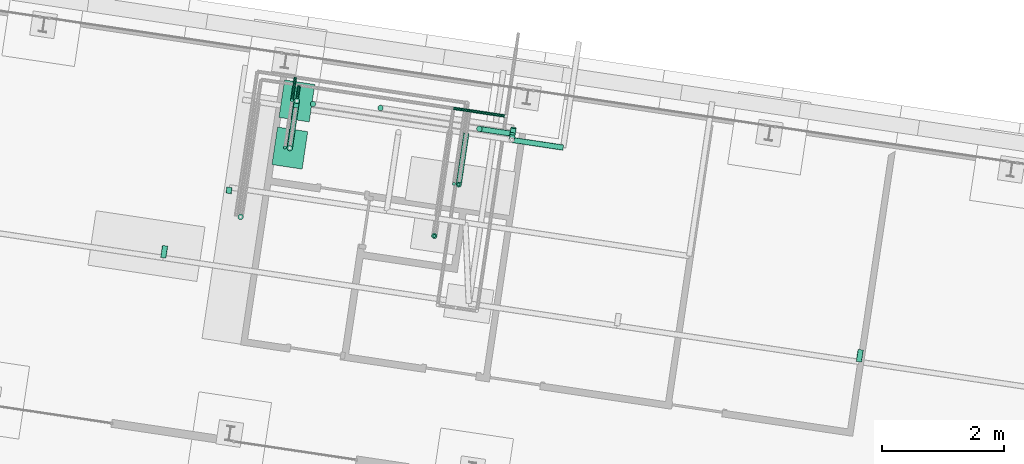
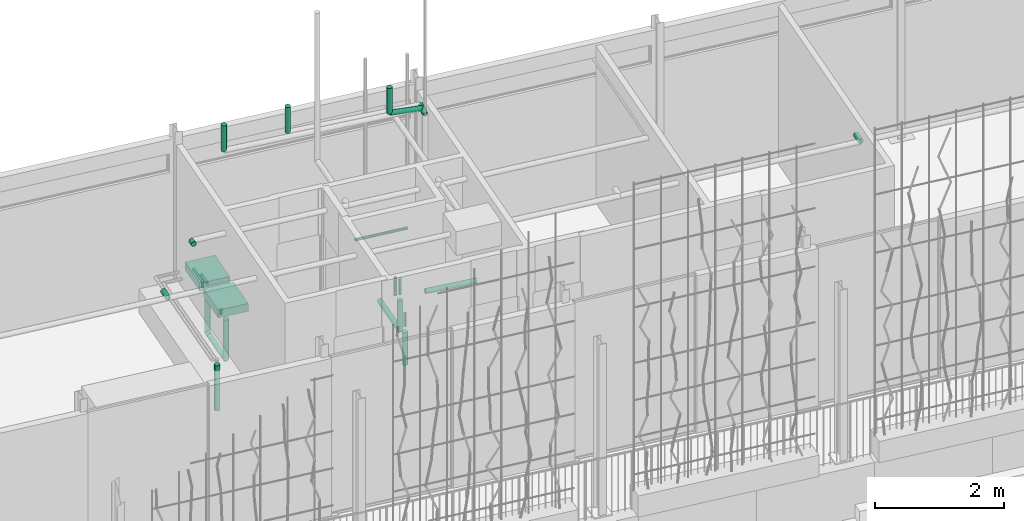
# One storey, part 138 of 142: 24 pipe segments, 3 duct segments, 2 sanitary terminals.
"""IFC4 building model written with IfcOpenShell, lengths in metres."""

from ifc_helpers import new_model, si_unit, direction, frame, origin_with_axes, place, context, subcontext, project, spatial, polyline, circle, outline, extrude, material, material_profile, profile_set, profile_usage, type_object, element, save


model = new_model("IFC4")

# Units and contexts
model_context = context("Model", 3, precision=1e-05, world=origin_with_axes(), true_north=direction((0.0, 1.0)))
body_context = subcontext(model_context, "Body", "Model", "MODEL_VIEW")
ifc_project = project(units=[si_unit("VOLUMEUNIT", "CUBIC_METRE"), si_unit("LENGTHUNIT", "METRE"), si_unit("AREAUNIT", "SQUARE_METRE")], contexts=[model_context])

# Site, building, storey
site_placement = place(None, origin_with_axes())
site = spatial("IfcSite", under=ifc_project, at=site_placement, Name="Lares · Rua das Mercês · artigo 4771")
building_placement = place(site_placement, frame((12.0, 10.2, 13.9), z_axis=(0.0, 0.0, 1.0), x_axis=(0.989015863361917, -0.147809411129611, 0.0)))
building = spatial("IfcBuilding", under=site, at=building_placement, Name="Casa Sobreposta")
storey_placement = place(building_placement, origin_with_axes())
storey = spatial("IfcBuildingStorey", under=building, at=storey_placement, Name="00 · Habitação e estacionamento", Elevation=13.9)

# Pipe segments
ifc_material_1 = material(Name="cold · traçado de estudo", Category="schematic services")
ifc_material_profile_1 = material_profile(ifc_material_1, circle(Radius=0.025))
ifc_profile_set_1 = profile_set([ifc_material_profile_1], Name="D0.05")
ifc_profile_usage_1 = profile_usage(ifc_profile_set_1)
pipe_segment_type_1 = type_object("IfcPipeSegmentType", Name="D0.05 / cold", PredefinedType="NOTDEFINED", material=ifc_profile_set_1)
pipe_segment_1_placement = place(storey_placement, frame((8.28, 5.92, 0.6), z_axis=(0.0, -1.0, 0.0), x_axis=(-1.0, 0.0, 0.0)))
element("IfcPipeSegment", 1, at=pipe_segment_1_placement, inside=storey, type_object=pipe_segment_type_1, material=ifc_profile_usage_1, Name="AF · Lavatório 2", context=body_context, shape_type="SweptSolid", body=[
    extrude(circle(Radius=0.025), origin_with_axes(), (0.0, 0.0, 1.0), 0.26),
])
ifc_profile_usage_2 = profile_usage(ifc_profile_set_1)
pipe_segment_2_placement = place(storey_placement, frame((11.7, 5.92, 0.6), z_axis=(-1.0, 0.0, 0.0), x_axis=(0.0, 1.0, 0.0)))
element("IfcPipeSegment", 2, at=pipe_segment_2_placement, inside=storey, type_object=pipe_segment_type_1, material=ifc_profile_usage_2, Name="AF · Banheira", context=body_context, shape_type="SweptSolid", body=[
    extrude(circle(Radius=0.025), origin_with_axes(), (0.0, 0.0, 1.0), 0.6),
])
ifc_profile_usage_3 = profile_usage(ifc_profile_set_1)
pipe_segment_3_placement = place(storey_placement, frame((11.1, 4.7, 0.6), z_axis=(0.0, 0.0, -1.0), x_axis=(1.0, 0.0, 0.0)))
element("IfcPipeSegment", 3, at=pipe_segment_3_placement, inside=storey, type_object=pipe_segment_type_1, material=ifc_profile_usage_3, Name="AF · Banheira", context=body_context, shape_type="SweptSolid", body=[
    extrude(circle(Radius=0.025), origin_with_axes(), (0.0, 0.0, 1.0), 0.3),
])
ifc_profile_usage_4 = profile_usage(ifc_profile_set_1)
pipe_segment_4_placement = place(storey_placement, frame((11.7, 5.92, 0.6), z_axis=(-1.0, 0.0, 0.0), x_axis=(0.0, 1.0, 0.0)))
element("IfcPipeSegment", 4, at=pipe_segment_4_placement, inside=storey, type_object=pipe_segment_type_1, material=ifc_profile_usage_4, Name="AF · Sanita", context=body_context, shape_type="SweptSolid", body=[
    extrude(circle(Radius=0.025), origin_with_axes(), (0.0, 0.0, 1.0), 0.869999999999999),
])
ifc_profile_usage_5 = profile_usage(ifc_profile_set_1)
pipe_segment_5_placement = place(storey_placement, frame((10.83, 3.81, 0.6), z_axis=(0.0, 0.0, -1.0), x_axis=(1.0, 0.0, 0.0)))
element("IfcPipeSegment", 5, at=pipe_segment_5_placement, inside=storey, type_object=pipe_segment_type_1, material=ifc_profile_usage_5, Name="AF · Sanita", context=body_context, shape_type="SweptSolid", body=[
    extrude(circle(Radius=0.025), origin_with_axes(), (0.0, 0.0, 1.0), 0.25),
])
ifc_material_2 = material(Name="hot · traçado de estudo", Category="schematic services")
ifc_material_profile_2 = material_profile(ifc_material_2, circle(Radius=0.025))
ifc_profile_set_2 = profile_set([ifc_material_profile_2], Name="D0.05")
ifc_profile_usage_6 = profile_usage(ifc_profile_set_2)
pipe_segment_type_2 = type_object("IfcPipeSegmentType", Name="D0.05 / hot", PredefinedType="NOTDEFINED", material=ifc_profile_set_2)
pipe_segment_6_placement = place(storey_placement, frame((8.2, 4.88, 0.65), z_axis=(0.0, 0.0, -1.0), x_axis=(1.0, 0.0, 0.0)))
element("IfcPipeSegment", 6, at=pipe_segment_6_placement, inside=storey, type_object=pipe_segment_type_2, material=ifc_profile_usage_6, Name="AQ · Lavatório 1", context=body_context, shape_type="SweptSolid", body=[
    extrude(circle(Radius=0.025), origin_with_axes(), (0.0, 0.0, 1.0), 0.1),
])
ifc_profile_usage_7 = profile_usage(ifc_profile_set_2)
pipe_segment_7_placement = place(storey_placement, frame((8.2, 6.04, 0.65), z_axis=(0.0, -1.0, 0.0), x_axis=(-1.0, 0.0, 0.0)))
element("IfcPipeSegment", 7, at=pipe_segment_7_placement, inside=storey, type_object=pipe_segment_type_2, material=ifc_profile_usage_7, Name="AQ · Lavatório 2", context=body_context, shape_type="SweptSolid", body=[
    extrude(circle(Radius=0.025), origin_with_axes(), (0.0, 0.0, 1.0), 0.38),
])
ifc_profile_usage_8 = profile_usage(ifc_profile_set_2)
pipe_segment_8_placement = place(storey_placement, frame((8.2, 5.66, 0.65), z_axis=(0.0, 0.0, -1.0), x_axis=(1.0, 0.0, 0.0)))
element("IfcPipeSegment", 8, at=pipe_segment_8_placement, inside=storey, type_object=pipe_segment_type_2, material=ifc_profile_usage_8, Name="AQ · Lavatório 2", context=body_context, shape_type="SweptSolid", body=[
    extrude(circle(Radius=0.025), origin_with_axes(), (0.0, 0.0, 1.0), 0.1),
])
ifc_profile_usage_9 = profile_usage(ifc_profile_set_2)
pipe_segment_9_placement = place(storey_placement, frame((11.02, 4.7, 0.65), z_axis=(0.0, 0.0, -1.0), x_axis=(1.0, 0.0, 0.0)))
element("IfcPipeSegment", 9, at=pipe_segment_9_placement, inside=storey, type_object=pipe_segment_type_2, material=ifc_profile_usage_9, Name="AQ · Banheira", context=body_context, shape_type="SweptSolid", body=[
    extrude(circle(Radius=0.025), origin_with_axes(), (0.0, 0.0, 1.0), 0.35),
])
ifc_material_3 = material(Name="waste · traçado de estudo", Category="schematic services")
ifc_material_profile_3 = material_profile(ifc_material_3, circle(Radius=0.045))
ifc_profile_set_3 = profile_set([ifc_material_profile_3], Name="D0.09")
ifc_profile_usage_10 = profile_usage(ifc_profile_set_3)
pipe_segment_type_3 = type_object("IfcPipeSegmentType", Name="D0.09 / waste", PredefinedType="NOTDEFINED", material=ifc_profile_set_3)
pipe_segment_10_placement = place(storey_placement, frame((7.65, 3.65, 0.55), z_axis=(0.0, 0.0, -1.0), x_axis=(1.0, 0.0, 0.0)))
element("IfcPipeSegment", 10, at=pipe_segment_10_placement, inside=storey, type_object=pipe_segment_type_3, material=ifc_profile_usage_10, Name="Esgoto · Lava-loiça", context=body_context, shape_type="SweptSolid", body=[
    extrude(circle(Radius=0.045), origin_with_axes(), (0.0, 0.0, 1.0), 0.855),
])
ifc_profile_usage_11 = profile_usage(ifc_profile_set_3)
pipe_segment_11_placement = place(storey_placement, frame((8.28, 4.88, 0.45), z_axis=(0.0, 0.0, -1.0), x_axis=(1.0, 0.0, 0.0)))
element("IfcPipeSegment", 11, at=pipe_segment_11_placement, inside=storey, type_object=pipe_segment_type_3, material=ifc_profile_usage_11, Name="Esgoto · Lavatório 1", context=body_context, shape_type="SweptSolid", body=[
    extrude(circle(Radius=0.045), origin_with_axes(), (0.0, 0.0, 1.0), 0.7676),
])
ifc_profile_usage_12 = profile_usage(ifc_profile_set_3)
pipe_segment_12_placement = place(storey_placement, frame((8.28, 4.88, -0.3176), z_axis=(0.0, 1.0, 0.0), x_axis=(1.0, 0.0, 0.0)))
element("IfcPipeSegment", 12, at=pipe_segment_12_placement, inside=storey, type_object=pipe_segment_type_3, material=ifc_profile_usage_12, Name="Esgoto · Lavatório 1", context=body_context, shape_type="SweptSolid", body=[
    extrude(circle(Radius=0.045), origin_with_axes(), (0.0, 0.0, 1.0), 0.67),
])
ifc_profile_usage_13 = profile_usage(ifc_profile_set_3)
pipe_segment_13_placement = place(storey_placement, frame((8.28, 5.66, 0.45), z_axis=(0.0, 0.0, -1.0), x_axis=(1.0, 0.0, 0.0)))
element("IfcPipeSegment", 13, at=pipe_segment_13_placement, inside=storey, type_object=pipe_segment_type_3, material=ifc_profile_usage_13, Name="Esgoto · Lavatório 2", context=body_context, shape_type="SweptSolid", body=[
    extrude(circle(Radius=0.045), origin_with_axes(), (0.0, 0.0, 1.0), 0.7676),
])
ifc_profile_usage_14 = profile_usage(ifc_profile_set_3)
pipe_segment_14_placement = place(storey_placement, frame((8.28, 5.66, -0.3176), z_axis=(0.0, -1.0, 0.0), x_axis=(-1.0, 0.0, 0.0)))
element("IfcPipeSegment", 14, at=pipe_segment_14_placement, inside=storey, type_object=pipe_segment_type_3, material=ifc_profile_usage_14, Name="Esgoto · Lavatório 2", context=body_context, shape_type="SweptSolid", body=[
    extrude(circle(Radius=0.045), origin_with_axes(), (0.0, 0.0, 1.0), 0.11),
])
ifc_profile_usage_15 = profile_usage(ifc_profile_set_3)
pipe_segment_15_placement = place(storey_placement, frame((11.1, 4.7, 0.2), z_axis=(0.0, 0.0, -1.0), x_axis=(1.0, 0.0, 0.0)))
element("IfcPipeSegment", 15, at=pipe_segment_15_placement, inside=storey, type_object=pipe_segment_type_3, material=ifc_profile_usage_15, Name="Esgoto · Banheira", context=body_context, shape_type="SweptSolid", body=[
    extrude(circle(Radius=0.045), origin_with_axes(), (0.0, 0.0, 1.0), 0.574),
])
ifc_profile_usage_16 = profile_usage(ifc_profile_set_3)
pipe_segment_16_placement = place(storey_placement, frame((11.1, 4.7, -0.374), z_axis=(0.0, 1.0, 0.0), x_axis=(1.0, 0.0, 0.0)))
element("IfcPipeSegment", 16, at=pipe_segment_16_placement, inside=storey, type_object=pipe_segment_type_3, material=ifc_profile_usage_16, Name="Esgoto · Banheira", context=body_context, shape_type="SweptSolid", body=[
    extrude(circle(Radius=0.045), origin_with_axes(), (0.0, 0.0, 1.0), 0.85),
])
ifc_profile_usage_17 = profile_usage(ifc_profile_set_3)
pipe_segment_17_placement = place(storey_placement, frame((10.83, 3.81, 0.25), z_axis=(0.0, 0.0, -1.0), x_axis=(1.0, 0.0, 0.0)))
element("IfcPipeSegment", 17, at=pipe_segment_17_placement, inside=storey, type_object=pipe_segment_type_3, material=ifc_profile_usage_17, Name="Esgoto · Sanita", context=body_context, shape_type="SweptSolid", body=[
    extrude(circle(Radius=0.045), origin_with_axes(), (0.0, 0.0, 1.0), 0.6186),
])
ifc_profile_usage_18 = profile_usage(ifc_profile_set_3)
pipe_segment_18_placement = place(storey_placement, frame((8.55, 5.65, 3.54), z_axis=(0.0, 0.0, -1.0), x_axis=(1.0, 0.0, 0.0)))
element("IfcPipeSegment", 18, at=pipe_segment_18_placement, inside=storey, type_object=pipe_segment_type_3, material=ifc_profile_usage_18, Name="Esgoto · banho superior · Lavatório", context=body_context, shape_type="SweptSolid", body=[
    extrude(circle(Radius=0.045), origin_with_axes(), (0.0, 0.0, 1.0), 0.49),
])
ifc_profile_usage_19 = profile_usage(ifc_profile_set_3)
pipe_segment_19_placement = place(storey_placement, frame((11.85, 5.65, 3.0), z_axis=(0.0, -0.894427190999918, -0.447213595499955), x_axis=(-1.0, 0.0, 0.0)))
element("IfcPipeSegment", 19, at=pipe_segment_19_placement, inside=storey, type_object=pipe_segment_type_3, material=ifc_profile_usage_19, Name="Esgoto · banho superior · Lavatório", context=body_context, shape_type="SweptSolid", body=[
    extrude(circle(Radius=0.045), origin_with_axes(), (0.0, 0.0, 1.0), 0.11180339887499),
])
ifc_profile_usage_20 = profile_usage(ifc_profile_set_3)
pipe_segment_20_placement = place(storey_placement, frame((11.85, 5.55, -0.389), z_axis=(0.999800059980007, 0.0, -0.0199960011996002), x_axis=(0.0, -1.0, 0.0)))
element("IfcPipeSegment", 20, at=pipe_segment_20_placement, inside=storey, type_object=pipe_segment_type_3, material=ifc_profile_usage_20, Name="Esgoto · banho superior · Lavatório", context=body_context, shape_type="SweptSolid", body=[
    extrude(circle(Radius=0.045), origin_with_axes(), (0.0, 0.0, 1.0), 0.850169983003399),
])
ifc_profile_usage_21 = profile_usage(ifc_profile_set_3)
pipe_segment_21_placement = place(storey_placement, frame((11.3, 5.65, 3.54), z_axis=(0.0, 0.0, -1.0), x_axis=(1.0, 0.0, 0.0)))
element("IfcPipeSegment", 21, at=pipe_segment_21_placement, inside=storey, type_object=pipe_segment_type_3, material=ifc_profile_usage_21, Name="Esgoto · banho superior · Duche", context=body_context, shape_type="SweptSolid", body=[
    extrude(circle(Radius=0.045), origin_with_axes(), (0.0, 0.0, 1.0), 0.49),
])
ifc_profile_usage_22 = profile_usage(ifc_profile_set_3)
pipe_segment_22_placement = place(storey_placement, frame((11.3, 5.65, 3.05), z_axis=(0.995893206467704, 0.0, -0.0905357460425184), x_axis=(0.0, -1.0, 0.0)))
element("IfcPipeSegment", 22, at=pipe_segment_22_placement, inside=storey, type_object=pipe_segment_type_3, material=ifc_profile_usage_22, Name="Esgoto · banho superior · Duche", context=body_context, shape_type="SweptSolid", body=[
    extrude(circle(Radius=0.045), origin_with_axes(), (0.0, 0.0, 1.0), 0.552268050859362),
])
ifc_profile_usage_23 = profile_usage(ifc_profile_set_3)
pipe_segment_23_placement = place(storey_placement, frame((9.65, 5.75, 3.54), z_axis=(0.0, 0.0, -1.0), x_axis=(1.0, 0.0, 0.0)))
element("IfcPipeSegment", 23, at=pipe_segment_23_placement, inside=storey, type_object=pipe_segment_type_3, material=ifc_profile_usage_23, Name="Esgoto · banho superior · Sanita", context=body_context, shape_type="SweptSolid", body=[
    extrude(circle(Radius=0.045), origin_with_axes(), (0.0, 0.0, 1.0), 0.49),
])
ifc_profile_usage_24 = profile_usage(ifc_profile_set_3)
pipe_segment_24_placement = place(storey_placement, frame((11.85, 5.75, 3.0), z_axis=(0.0, -0.970142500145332, -0.242535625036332), x_axis=(-1.0, 0.0, 0.0)))
element("IfcPipeSegment", 24, at=pipe_segment_24_placement, inside=storey, type_object=pipe_segment_type_3, material=ifc_profile_usage_24, Name="Esgoto · banho superior · Sanita", context=body_context, shape_type="SweptSolid", body=[
    extrude(circle(Radius=0.045), origin_with_axes(), (0.0, 0.0, 1.0), 0.206155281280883),
])

# Duct segments
ifc_material_4 = material(Name="supply · traçado de estudo", Category="schematic services")
ifc_material_profile_4 = material_profile(ifc_material_4, circle(Radius=0.045))
ifc_profile_set_4 = profile_set([ifc_material_profile_4], Name="D0.09")
ifc_profile_usage_25 = profile_usage(ifc_profile_set_4)
duct_segment_type_1 = type_object("IfcDuctSegmentType", Name="D0.09 / supply", PredefinedType="NOTDEFINED", material=ifc_profile_set_4)
duct_segment_1_placement = place(storey_placement, frame((6.5, 2.8, 2.65), z_axis=(0.0, 1.0, 0.0), x_axis=(1.0, 0.0, 0.0)))
element("IfcDuctSegment", 25, at=duct_segment_1_placement, inside=storey, type_object=duct_segment_type_1, material=ifc_profile_usage_25, Name="VMC · insuflação", context=body_context, shape_type="SweptSolid", body=[
    extrude(circle(Radius=0.045), origin_with_axes(), (0.0, 0.0, 1.0), 0.2),
])
ifc_profile_usage_26 = profile_usage(ifc_profile_set_4)
duct_segment_2_placement = place(storey_placement, frame((18.0, 2.8, 2.65), z_axis=(0.0, 1.0, 0.0), x_axis=(1.0, 0.0, 0.0)))
element("IfcDuctSegment", 26, at=duct_segment_2_placement, inside=storey, type_object=duct_segment_type_1, material=ifc_profile_usage_26, Name="VMC · insuflação", context=body_context, shape_type="SweptSolid", body=[
    extrude(circle(Radius=0.045), origin_with_axes(), (0.0, 0.0, 1.0), 0.2),
])
ifc_material_5 = material(Name="extract · traçado de estudo", Category="schematic services")
ifc_material_profile_5 = material_profile(ifc_material_5, circle(Radius=0.045))
ifc_profile_set_5 = profile_set([ifc_material_profile_5], Name="D0.09")
ifc_profile_usage_27 = profile_usage(ifc_profile_set_5)
duct_segment_type_2 = type_object("IfcDuctSegmentType", Name="D0.09 / extract", PredefinedType="NOTDEFINED", material=ifc_profile_set_5)
duct_segment_3_placement = place(storey_placement, frame((7.4, 4.1, 2.65), z_axis=(0.0, -1.0, 0.0), x_axis=(-1.0, 0.0, 0.0)))
element("IfcDuctSegment", 27, at=duct_segment_3_placement, inside=storey, type_object=duct_segment_type_2, material=ifc_profile_usage_27, Name="VMC · extração", context=body_context, shape_type="SweptSolid", body=[
    extrude(circle(Radius=0.045), origin_with_axes(), (0.0, 0.0, 1.0), 0.0999999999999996),
])

# Sanitary terminals
ifc_material_6 = material(Name="Cerâmica sanitária — esquema", Category="ceramic")
sanitary_terminal_1_placement = place(storey_placement, frame((0.0, 0.0, 0.72), z_axis=(0.0, 0.0, 1.0), x_axis=(1.0, 0.0, 0.0)))
element("IfcSanitaryTerminal", 28, at=sanitary_terminal_1_placement, inside=storey, material=ifc_material_6, Name="Lavatório 1", PredefinedType="WASHHANDBASIN", context=body_context, shape_type="SweptSolid", body=[
    extrude(outline(polyline([(8.53099999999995, 4.57099999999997), (8.53099999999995, 5.19099999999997), (8.03099999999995, 5.19099999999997), (8.03099999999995, 4.57099999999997), (8.53099999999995, 4.57099999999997)])), origin_with_axes(), (0.0, 0.0, 1.0), 0.15),
])
sanitary_terminal_2_placement = place(storey_placement, frame((0.0, 0.0, 0.72), z_axis=(0.0, 0.0, 1.0), x_axis=(1.0, 0.0, 0.0)))
element("IfcSanitaryTerminal", 29, at=sanitary_terminal_2_placement, inside=storey, material=ifc_material_6, Name="Lavatório 2", PredefinedType="WASHHANDBASIN", context=body_context, shape_type="SweptSolid", body=[
    extrude(outline(polyline([(8.53099999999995, 5.351), (8.53099999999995, 5.971), (8.03099999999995, 5.971), (8.03099999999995, 5.351), (8.53099999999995, 5.351)])), origin_with_axes(), (0.0, 0.0, 1.0), 0.15),
])

save(model, "model.ifc")
